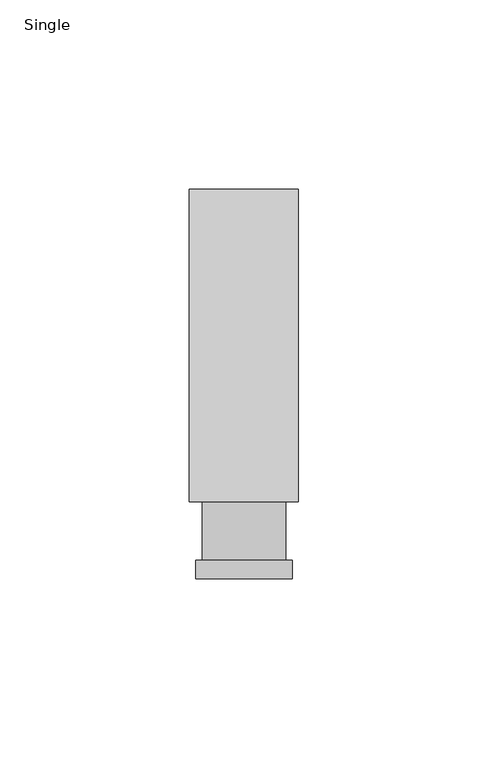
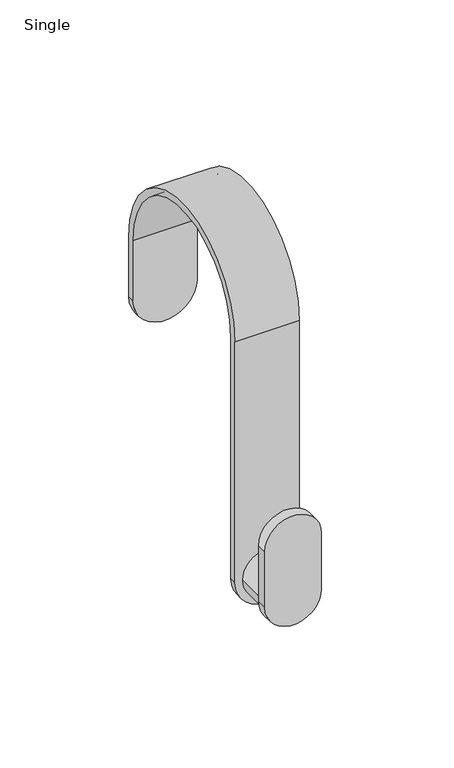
"""IFC4 building model written with IfcOpenShell, lengths in millimetres: furniture geometry, Stylex - Ambi - Coat Hook : Single."""

from ifc_helpers import new_model, si_unit, point, frame, frame_2d, origin, place, context, project, spatial, polyline, circle_curve, trimmed, segment, composite_curve, outline, extrude, source, transform, mapped, element, save
from ifc_brep_helpers import plane_surface, cylinder_surface, revolved_surface, advanced_brep


def single_1c9934fe(model_context):
    return source(origin(), model_context, "Body", "SolidModel", [
        extrude(outline(composite_curve([segment(polyline([(1219.2000182, 12.7046435), (1245.5277664, 12.7046435)]), True, "CONTINUOUS"), segment(trimmed(circle_curve(frame_2d((1245.5277664, 0.0)), 12.7046435), [point((1245.5277664, 12.7046435))], [point((1245.5277664, -12.7046435))], False, "CARTESIAN"), True, "CONTINUOUS"), segment(polyline([(1245.5277664, -12.7046435), (1219.2000182, -12.7046435)]), True, "CONTINUOUS"), segment(trimmed(circle_curve(frame_2d((1219.2000182, 0.0)), 12.7046435), [point((1219.2000182, -12.7046435))], [point((1219.2000182, 12.7046435))], False, "CARTESIAN"), True, "CONTINUOUS")], self_intersect=False)), frame((0.0, -61.4942883, 0.0), z_axis=(0.0, 1.0, 0.0), x_axis=(0.0, 0.0, 1.0)), (0.0, 0.0, 1.0), 4.8853849),
        extrude(outline(composite_curve([segment(trimmed(circle_curve(frame_2d((1219.2000182, 0.0)), 11.0077898), [point((1219.2000182, -11.0077898))], [point((1219.2000182, 11.0077898))], False, "CARTESIAN"), True, "CONTINUOUS"), segment(trimmed(circle_curve(frame_2d((1219.2000182, 0.0)), 11.0077898), [point((1219.2000182, 11.0077898))], [point((1219.2000182, -11.0077898))], False, "CARTESIAN"), True, "CONTINUOUS")], self_intersect=False)), frame((0.0, -56.6089034, 0.0), z_axis=(0.0, 1.0, 0.0), x_axis=(0.0, 0.0, 1.0)), (0.0, 0.0, 1.0), 15.3339216),
        advanced_brep(
        [(-14.4014972, -41.2749818, 1219.2000182), (14.4014972, -41.2749818, 1219.2000182), (14.4014972, -41.2749818, 1333.5000182), (-14.4014972, -41.2749818, 1333.5000182), (14.4014972, -38.0999818, 1219.2000182), (-14.4014972, -38.0999818, 1219.2000182), (-14.4014972, -38.0999818, 1333.5000182), (14.4014972, -38.0999818, 1333.5000182), (14.4014972, 38.0999818, 1333.5000182), (14.4014972, 38.0999818, 1304.9250182), (14.4014972, 41.2749818, 1304.9250182), (14.4014972, 41.2749818, 1333.5000182), (-14.4014972, 41.2749818, 1333.5000182), (-14.4014972, 41.2749818, 1304.9250182), (-14.4014972, 38.0999818, 1304.9250182), (-14.4014972, 38.0999818, 1333.5000182)],
        [
            (0, 1, circle_curve(frame((0.0, -41.2749818, 1219.2000182), z_axis=(0.0, -1.0, 0.0), x_axis=(1.0, 0.0, 0.0)), 14.4014972)),
            (1, 2),
            (2, 3),
            (3, 0),
            (4, 5, circle_curve(frame((0.0, -38.0999818, 1219.2000182), z_axis=(0.0, 1.0, 0.0), x_axis=(1.0, 0.0, 0.0)), 14.4014972)),
            (5, 6),
            (6, 7),
            (7, 4),
            (0, 5),
            (4, 1),
            (7, 8, circle_curve(frame((14.4014972, 0.0, 1333.5000182), z_axis=(-1.0, 0.0, 0.0), x_axis=(0.0, 1.0, 0.0)), 38.0999818)),
            (8, 9),
            (9, 10),
            (10, 11),
            (11, 2, circle_curve(frame((14.4014972, 0.0, 1333.5000182), z_axis=(1.0, 0.0, 0.0), x_axis=(0.0, 1.0, 0.0)), 41.2749818)),
            (3, 12, circle_curve(frame((-14.4014972, 0.0, 1333.5000182), z_axis=(-1.0, 0.0, 0.0), x_axis=(0.0, 1.0, 0.0)), 41.2749818)),
            (12, 13),
            (13, 14),
            (14, 15),
            (15, 6, circle_curve(frame((-14.4014972, 0.0, 1333.5000182), z_axis=(1.0, 0.0, 0.0), x_axis=(0.0, 1.0, 0.0)), 38.0999818)),
            (15, 8),
            (14, 9, circle_curve(frame((0.0, 38.0999818, 1304.9250182), z_axis=(0.0, -1.0, 0.0), x_axis=(1.0, 0.0, 0.0)), 14.4014972)),
            (10, 13, circle_curve(frame((0.0, 41.2749818, 1304.9250182), z_axis=(0.0, 1.0, 0.0), x_axis=(1.0, 0.0, 0.0)), 14.4014972)),
            (12, 11),
        ],
        [
            plane_surface(frame((-14.4014972, -41.2749818, 1219.2000182), z_axis=(0.0, -1.0, 0.0), x_axis=(-1.0, 0.0, 0.0))),
            plane_surface(frame((-14.4014972, -38.0999818, 1219.2000182), z_axis=(0.0, 1.0, 0.0), x_axis=(1.0, 0.0, 0.0))),
            cylinder_surface(frame((0.0, -38.0999818, 1219.2000182), z_axis=(0.0, -1.0, 0.0), x_axis=(1.0, 0.0, 0.0)), 14.4014972),
            plane_surface(frame((14.4014972, -38.0999818, 1333.5000182), z_axis=(1.0, 0.0, 0.0), x_axis=(0.0, 0.0, 1.0))),
            plane_surface(frame((-14.4014972, -38.0999818, 1333.5000182), z_axis=(-1.0, 0.0, 0.0), x_axis=(0.0, 0.0, -1.0))),
            revolved_surface(polyline([(-14.4014972, 38.0999818, 1333.5000182), (14.4014972, 38.0999818, 1333.5000182)]), (-14.4014972, 0.0, 1333.5000182), (-1.0, 0.0, 0.0)),
            plane_surface(frame((14.4014972, 38.0999818, 1333.5000182), z_axis=(0.0, -1.0, 0.0), x_axis=(-1.0, 0.0, 0.0))),
            plane_surface(frame((14.4014972, 41.2749818, 1304.9250182), z_axis=(0.0, 1.0, 0.0), x_axis=(-1.0, 0.0, 0.0))),
            cylinder_surface(frame((-14.4014972, 0.0, 1333.5000182), z_axis=(1.0, 0.0, 0.0), x_axis=(0.0, 1.0, 0.0)), 41.2749818),
            cylinder_surface(frame((0.0, 38.0999818, 1304.9250182), z_axis=(0.0, 1.0, 0.0), x_axis=(1.0, 0.0, 0.0)), 14.4014972),
        ],
        [
            (0, [[1, 2, 3, 4]]),
            (1, [[5, 6, 7, 8]]),
            (2, [[-1, 9, -5, 10]]),
            (3, [[-8, 11, 12, 13, 14, 15, -2, -10]]),
            (4, [[-4, 16, 17, 18, 19, 20, -6, -9]]),
            (5, [[-11, -7, -20, 21]]),
            (6, [[-12, -21, -19, 22]]),
            (7, [[-14, 23, -17, 24]]),
            (8, [[-15, -24, -16, -3]]),
            (9, [[-23, -13, -22, -18]]),
        ],
    ),
    ])


if __name__ == "__main__":
    model = new_model("IFC4")
    model_context = context("Model", 3, world=origin())
    ifc_project = project(units=[si_unit("LENGTHUNIT", "METRE", prefix="MILLI")], contexts=[model_context])
    site = spatial("IfcSite", under=ifc_project)
    building = spatial("IfcBuilding", under=site)
    placement = place(None, origin())
    single_shape = single_1c9934fe(model_context)
    element("IfcFurniture", 1, ObjectType="Stylex - Ambi - Coat Hook : Single", at=placement, inside=building, context=model_context, shape_type="MappedRepresentation", body=[
        mapped(single_shape, transform((0.0, 0.0, 0.0), x_axis=(1.0, 0.0, 0.0), y_axis=(0.0, 1.0, 0.0), z_axis=(0.0, 0.0, 1.0))),
    ])
    save(model, "model.ifc")
